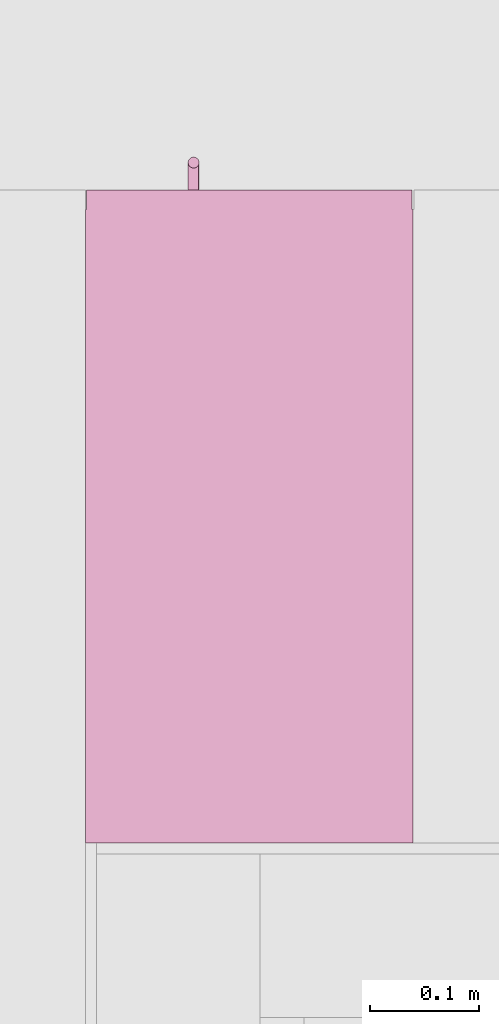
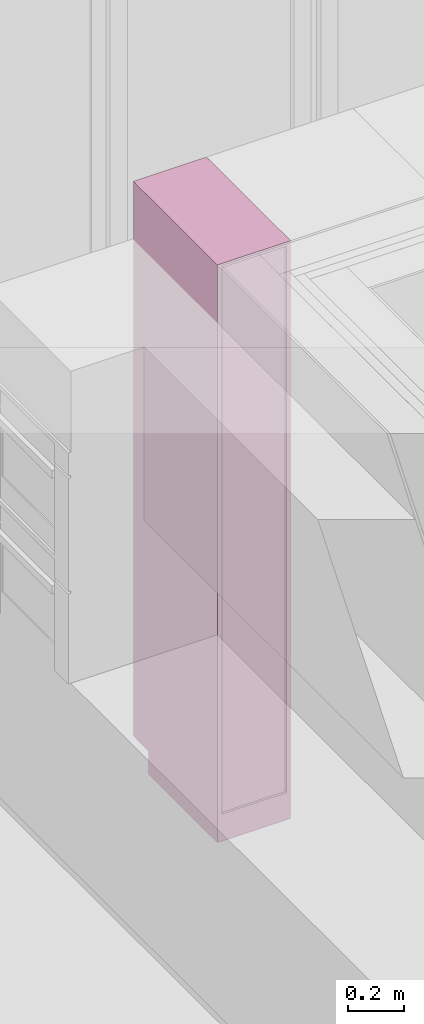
# One storey, part 29 of 34: 1 furniture element.
"""IFC4 building model written with IfcOpenShell, lengths in millimetres."""

from ifc_helpers import new_model, entity, si_unit, converted_unit, derived_unit, direction, frame, origin_with_axes, place, context, subcontext, project, spatial, polygons, source, transform, mapped, type_object, element, save


model = new_model("IFC4")

# Units and contexts
model_context = context("Model", 3, precision=0.01, world=origin_with_axes(), true_north=direction((0.0, 1.0)))
body_context = subcontext(model_context, "Body", "Model", "MODEL_VIEW")
ifc_project = project(units=[si_unit("LENGTHUNIT", "METRE", prefix="MILLI"), si_unit("AREAUNIT", "SQUARE_METRE"), si_unit("VOLUMEUNIT", "CUBIC_METRE"), converted_unit("PLANEANGLEUNIT", "DEGREE", entity("IfcPlaneAngleMeasure", 0.0174532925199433), si_unit("PLANEANGLEUNIT", "RADIAN"), dimensions=[0, 0, 0, 0, 0, 0, 0]), converted_unit("TIMEUNIT", "Year", entity("IfcTimeMeasure", 31557600.0), si_unit("TIMEUNIT", "SECOND"), dimensions=[0, 0, 1, 0, 0, 0, 0]), si_unit("MASSUNIT", "GRAM", prefix="KILO"), si_unit("THERMODYNAMICTEMPERATUREUNIT", "DEGREE_CELSIUS"), si_unit("LUMINOUSINTENSITYUNIT", "LUMEN"), si_unit("ENERGYUNIT", "JOULE", prefix="MEGA"), derived_unit("THERMALCONDUCTANCEUNIT", [(si_unit("POWERUNIT", "WATT"), 1), (si_unit("LENGTHUNIT", "METRE"), -1), (si_unit("THERMODYNAMICTEMPERATUREUNIT", "KELVIN"), -1)]), derived_unit("SPECIFICHEATCAPACITYUNIT", [(si_unit("ENERGYUNIT", "JOULE"), 1), (si_unit("MASSUNIT", "GRAM", prefix="KILO"), -1), (si_unit("THERMODYNAMICTEMPERATUREUNIT", "KELVIN"), -1)]), derived_unit("MASSDENSITYUNIT", [(si_unit("MASSUNIT", "GRAM", prefix="KILO"), 1), (si_unit("VOLUMEUNIT", "CUBIC_METRE"), -1)])], contexts=[model_context])

# Site, building, storey
site_placement = place(None, origin_with_axes())
site = spatial("IfcSite", under=ifc_project, at=site_placement, Name="Gelände", CompositionType="ELEMENT")
building_placement = place(site_placement, origin_with_axes())
building = spatial("IfcBuilding", under=site, at=building_placement, Name="Gebäude", CompositionType="ELEMENT")
storey_placement = place(building_placement, frame((0.0, 0.0, 5799.999999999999), z_axis=(0.0, 0.0, 1.0), x_axis=(1.0, 0.0, 0.0)))
storey = spatial("IfcBuildingStorey", under=building, at=storey_placement, Name="2.OG", CompositionType="ELEMENT", Elevation=5800.0)

# Furniture
furniture_type = type_object("IfcFurnitureType", Name="Stehender Schrank Block 27", AssemblyPlace="NOTDEFINED", PredefinedType="NOTDEFINED")
shared_shape = source(origin_with_axes(), body_context, "Body", "Tessellation", [
    polygons([(201.8682408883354, -597.9999999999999, 1352.799038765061), (202.710100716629, -597.9999999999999, 1352.573463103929), (203.5000000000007, -597.9999999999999, 1352.205127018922), (204.2139380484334, -597.9999999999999, 1351.705222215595), (204.8302222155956, -597.9999999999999, 1351.088938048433), (205.3301270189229, -597.9999999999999, 1350.375), (205.6984631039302, -597.9999999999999, 1349.585100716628), (205.9240387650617, -597.9999999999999, 1348.743240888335), (206.0000000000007, -597.9999999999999, 1347.875), (205.9240387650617, -597.9999999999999, 1347.006759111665), (205.6984631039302, -597.9999999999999, 1346.164899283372), (205.3301270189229, -597.9999999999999, 1345.375), (204.8302222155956, -597.9999999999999, 1344.661061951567), (204.2139380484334, -597.9999999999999, 1344.044777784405), (203.5000000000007, -597.9999999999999, 1343.544872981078), (202.710100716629, -597.9999999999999, 1343.176536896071), (201.8682408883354, -597.9999999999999, 1342.950961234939), (201.0000000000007, -597.9999999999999, 1342.875), (200.1317591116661, -597.9999999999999, 1342.950961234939), (199.2898992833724, -597.9999999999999, 1343.176536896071), (198.5000000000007, -597.9999999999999, 1343.544872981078), (197.786061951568, -597.9999999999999, 1344.044777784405), (197.1697777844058, -597.9999999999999, 1344.661061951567), (196.6698729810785, -597.9999999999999, 1345.375), (196.3015368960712, -597.9999999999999, 1346.164899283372), (196.0759612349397, -597.9999999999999, 1347.006759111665), (196.0000000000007, -597.9999999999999, 1347.875), (196.0759612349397, -597.9999999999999, 1348.743240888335), (196.3015368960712, -597.9999999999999, 1349.585100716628), (196.6698729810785, -597.9999999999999, 1350.375), (197.1697777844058, -597.9999999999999, 1351.088938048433), (197.786061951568, -597.9999999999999, 1351.705222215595), (198.5000000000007, -597.9999999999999, 1352.205127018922), (199.2898992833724, -597.9999999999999, 1352.573463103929), (200.1317591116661, -597.9999999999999, 1352.799038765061), (201.0000000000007, -597.9999999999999, 1352.875), (201.8682408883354, -622.9999999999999, 1352.799038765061), (202.710100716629, -622.9999999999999, 1352.573463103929), (203.5000000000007, -622.9999999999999, 1352.205127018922), (204.2139380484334, -622.9999999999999, 1351.705222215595), (204.8302222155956, -622.9999999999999, 1351.088938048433), (205.3301270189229, -622.9999999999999, 1350.375), (205.6984631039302, -622.9999999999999, 1349.585100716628), (205.9240387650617, -622.9999999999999, 1348.743240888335), (206.0000000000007, -622.9999999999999, 1347.875), (205.9240387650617, -622.9999999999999, 1347.006759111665), (205.6984631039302, -622.9999999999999, 1346.164899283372), (205.3301270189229, -622.9999999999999, 1345.375), (204.8302222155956, -622.9999999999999, 1344.661061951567), (204.2139380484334, -622.9999999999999, 1344.044777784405), (203.5000000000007, -622.9999999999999, 1343.544872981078), (202.710100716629, -622.9999999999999, 1343.176536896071), (201.8682408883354, -622.9999999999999, 1342.950961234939), (201.0000000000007, -622.9999999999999, 1342.875), (200.1317591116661, -622.9999999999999, 1342.950961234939), (199.2898992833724, -622.9999999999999, 1343.176536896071), (198.5000000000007, -622.9999999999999, 1343.544872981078), (197.786061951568, -622.9999999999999, 1344.044777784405), (197.1697777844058, -622.9999999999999, 1344.661061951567), (196.6698729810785, -622.9999999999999, 1345.375), (196.3015368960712, -622.9999999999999, 1346.164899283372), (196.0759612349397, -622.9999999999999, 1347.006759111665), (196.0000000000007, -622.9999999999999, 1347.875), (196.0759612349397, -622.9999999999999, 1348.743240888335), (196.3015368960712, -622.9999999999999, 1349.585100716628), (196.6698729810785, -622.9999999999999, 1350.375), (197.1697777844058, -622.9999999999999, 1351.088938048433), (197.786061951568, -622.9999999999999, 1351.705222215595), (198.5000000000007, -622.9999999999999, 1352.205127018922), (199.2898992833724, -622.9999999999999, 1352.573463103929), (200.1317591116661, -622.9999999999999, 1352.799038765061), (201.0000000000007, -622.9999999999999, 1352.875)], [[[1, 2, 3, 4, 5, 6, 7, 8, 9, 10, 11, 12, 13, 14, 15, 16, 17, 18, 19, 20, 21, 22, 23, 24, 25, 26, 27, 28, 29, 30, 31, 32, 33, 34, 35, 36]], [[2, 1, 37, 38]], [[3, 2, 38, 39]], [[4, 3, 39, 40]], [[5, 4, 40, 41]], [[6, 5, 41, 42]], [[7, 6, 42, 43]], [[8, 7, 43, 44]], [[9, 8, 44, 45]], [[10, 9, 45, 46]], [[11, 10, 46, 47]], [[12, 11, 47, 48]], [[13, 12, 48, 49]], [[14, 13, 49, 50]], [[15, 14, 50, 51]], [[16, 15, 51, 52]], [[17, 16, 52, 53]], [[18, 17, 53, 54]], [[19, 18, 54, 55]], [[20, 19, 55, 56]], [[21, 20, 56, 57]], [[22, 21, 57, 58]], [[23, 22, 58, 59]], [[24, 23, 59, 60]], [[25, 24, 60, 61]], [[26, 25, 61, 62]], [[27, 26, 62, 63]], [[28, 27, 63, 64]], [[29, 28, 64, 65]], [[30, 29, 65, 66]], [[31, 30, 66, 67]], [[32, 31, 67, 68]], [[33, 32, 68, 69]], [[34, 33, 69, 70]], [[35, 34, 70, 71]], [[36, 35, 71, 72]], [[1, 36, 72, 37]], [[37, 72, 71, 70, 69, 68, 67, 66, 65, 64, 63, 62, 61, 60, 59, 58, 57, 56, 55, 54, 53, 52, 51, 50, 49, 48, 47, 46, 45, 44, 43, 42, 41, 40, 39, 38]]], closed=True),
    polygons([(201.8682408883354, -597.9999999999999, 1249.200961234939), (201.0000000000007, -597.9999999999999, 1249.125), (200.1317591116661, -597.9999999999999, 1249.200961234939), (199.2898992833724, -597.9999999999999, 1249.426536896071), (198.5000000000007, -597.9999999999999, 1249.794872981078), (197.786061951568, -597.9999999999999, 1250.294777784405), (197.1697777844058, -597.9999999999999, 1250.911061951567), (196.6698729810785, -597.9999999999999, 1251.625), (196.3015368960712, -597.9999999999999, 1252.414899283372), (196.0759612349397, -597.9999999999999, 1253.256759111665), (196.0000000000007, -597.9999999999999, 1254.125), (196.0759612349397, -597.9999999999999, 1254.993240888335), (196.3015368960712, -597.9999999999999, 1255.835100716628), (196.6698729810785, -597.9999999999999, 1256.625), (197.1697777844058, -597.9999999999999, 1257.338938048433), (197.786061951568, -597.9999999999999, 1257.955222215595), (198.5000000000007, -597.9999999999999, 1258.455127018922), (199.2898992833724, -597.9999999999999, 1258.823463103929), (200.1317591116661, -597.9999999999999, 1259.049038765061), (201.0000000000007, -597.9999999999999, 1259.125), (201.8682408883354, -597.9999999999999, 1259.049038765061), (202.710100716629, -597.9999999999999, 1258.823463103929), (203.5000000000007, -597.9999999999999, 1258.455127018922), (204.2139380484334, -597.9999999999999, 1257.955222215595), (204.8302222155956, -597.9999999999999, 1257.338938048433), (205.3301270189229, -597.9999999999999, 1256.625), (205.6984631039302, -597.9999999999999, 1255.835100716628), (205.9240387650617, -597.9999999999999, 1254.993240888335), (206.0000000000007, -597.9999999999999, 1254.125), (205.9240387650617, -597.9999999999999, 1253.256759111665), (205.6984631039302, -597.9999999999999, 1252.414899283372), (205.3301270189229, -597.9999999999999, 1251.625), (204.8302222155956, -597.9999999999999, 1250.911061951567), (204.2139380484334, -597.9999999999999, 1250.294777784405), (203.5000000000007, -597.9999999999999, 1249.794872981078), (202.710100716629, -597.9999999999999, 1249.426536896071), (201.8682408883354, -622.9999999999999, 1249.200961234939), (201.0000000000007, -622.9999999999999, 1249.125), (200.1317591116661, -622.9999999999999, 1249.200961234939), (199.2898992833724, -622.9999999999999, 1249.426536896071), (198.5000000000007, -622.9999999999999, 1249.794872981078), (197.786061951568, -622.9999999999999, 1250.294777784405), (197.1697777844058, -622.9999999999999, 1250.911061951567), (196.6698729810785, -622.9999999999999, 1251.625), (196.3015368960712, -622.9999999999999, 1252.414899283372), (196.0759612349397, -622.9999999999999, 1253.256759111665), (196.0000000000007, -622.9999999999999, 1254.125), (196.0759612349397, -622.9999999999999, 1254.993240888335), (196.3015368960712, -622.9999999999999, 1255.835100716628), (196.6698729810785, -622.9999999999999, 1256.625), (197.1697777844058, -622.9999999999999, 1257.338938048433), (197.786061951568, -622.9999999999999, 1257.955222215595), (198.5000000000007, -622.9999999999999, 1258.455127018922), (199.2898992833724, -622.9999999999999, 1258.823463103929), (200.1317591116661, -622.9999999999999, 1259.049038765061), (201.0000000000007, -622.9999999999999, 1259.125), (201.8682408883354, -622.9999999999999, 1259.049038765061), (202.710100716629, -622.9999999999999, 1258.823463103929), (203.5000000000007, -622.9999999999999, 1258.455127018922), (204.2139380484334, -622.9999999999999, 1257.955222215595), (204.8302222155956, -622.9999999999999, 1257.338938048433), (205.3301270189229, -622.9999999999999, 1256.625), (205.6984631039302, -622.9999999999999, 1255.835100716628), (205.9240387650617, -622.9999999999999, 1254.993240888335), (206.0000000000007, -622.9999999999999, 1254.125), (205.9240387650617, -622.9999999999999, 1253.256759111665), (205.6984631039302, -622.9999999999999, 1252.414899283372), (205.3301270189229, -622.9999999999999, 1251.625), (204.8302222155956, -622.9999999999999, 1250.911061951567), (204.2139380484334, -622.9999999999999, 1250.294777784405), (203.5000000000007, -622.9999999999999, 1249.794872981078), (202.710100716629, -622.9999999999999, 1249.426536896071)], [[[1, 2, 3, 4, 5, 6, 7, 8, 9, 10, 11, 12, 13, 14, 15, 16, 17, 18, 19, 20, 21, 22, 23, 24, 25, 26, 27, 28, 29, 30, 31, 32, 33, 34, 35, 36]], [[1, 37, 38, 2]], [[2, 38, 39, 3]], [[3, 39, 40, 4]], [[4, 40, 41, 5]], [[5, 41, 42, 6]], [[6, 42, 43, 7]], [[7, 43, 44, 8]], [[8, 44, 45, 9]], [[9, 45, 46, 10]], [[10, 46, 47, 11]], [[11, 47, 48, 12]], [[12, 48, 49, 13]], [[13, 49, 50, 14]], [[14, 50, 51, 15]], [[15, 51, 52, 16]], [[16, 52, 53, 17]], [[17, 53, 54, 18]], [[18, 54, 55, 19]], [[19, 55, 56, 20]], [[20, 56, 57, 21]], [[21, 57, 58, 22]], [[22, 58, 59, 23]], [[23, 59, 60, 24]], [[24, 60, 61, 25]], [[25, 61, 62, 26]], [[26, 62, 63, 27]], [[27, 63, 64, 28]], [[28, 64, 65, 29]], [[29, 65, 66, 30]], [[30, 66, 67, 31]], [[31, 67, 68, 32]], [[32, 68, 69, 33]], [[33, 69, 70, 34]], [[34, 70, 71, 35]], [[35, 71, 72, 36]], [[36, 72, 37, 1]], [[37, 72, 71, 70, 69, 68, 67, 66, 65, 64, 63, 62, 61, 60, 59, 58, 57, 56, 55, 54, 53, 52, 51, 50, 49, 48, 47, 46, 45, 44, 43, 42, 41, 40, 39, 38]]], closed=True),
    polygons([(201.8682408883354, -618.0759612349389, 1226.0), (202.710100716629, -618.3015368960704, 1226.0), (203.5000000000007, -618.6698729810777, 1226.0), (204.2139380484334, -619.1697777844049, 1226.0), (204.8302222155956, -619.7860619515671, 1226.0), (205.3301270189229, -620.4999999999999, 1226.0), (205.6984631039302, -621.2898992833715, 1226.0), (205.9240387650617, -622.1317591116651, 1226.0), (206.0000000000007, -622.9999999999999, 1226.0), (205.9240387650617, -623.8682408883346, 1226.0), (205.6984631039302, -624.7101007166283, 1226.0), (205.3301270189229, -625.4999999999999, 1226.0), (204.8302222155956, -626.2139380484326, 1226.0), (204.2139380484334, -626.8302222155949, 1226.0), (203.5000000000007, -627.3301270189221, 1226.0), (202.710100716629, -627.6984631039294, 1226.0), (201.8682408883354, -627.924038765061, 1226.0), (201.0000000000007, -627.9999999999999, 1226.0), (200.1317591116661, -627.924038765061, 1226.0), (199.2898992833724, -627.6984631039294, 1226.0), (198.5000000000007, -627.3301270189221, 1226.0), (197.786061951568, -626.8302222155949, 1226.0), (197.1697777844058, -626.2139380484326, 1226.0), (196.6698729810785, -625.4999999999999, 1226.0), (196.3015368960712, -624.7101007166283, 1226.0), (196.0759612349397, -623.8682408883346, 1226.0), (196.0000000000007, -622.9999999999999, 1226.0), (196.0759612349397, -622.1317591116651, 1226.0), (196.3015368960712, -621.2898992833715, 1226.0), (196.6698729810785, -620.4999999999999, 1226.0), (197.1697777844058, -619.7860619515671, 1226.0), (197.786061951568, -619.1697777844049, 1226.0), (198.5000000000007, -618.6698729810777, 1226.0), (199.2898992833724, -618.3015368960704, 1226.0), (200.1317591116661, -618.0759612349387, 1226.0), (201.0000000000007, -617.9999999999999, 1226.0), (201.8682408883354, -618.0759612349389, 1376.0), (202.7101007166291, -618.3015368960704, 1376.0), (203.5000000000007, -618.6698729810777, 1376.0), (204.2139380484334, -619.1697777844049, 1376.0), (204.8302222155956, -619.7860619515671, 1376.0), (205.3301270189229, -620.4999999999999, 1376.0), (205.6984631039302, -621.2898992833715, 1376.0), (205.9240387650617, -622.1317591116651, 1376.0), (206.0000000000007, -622.9999999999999, 1376.0), (205.9240387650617, -623.8682408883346, 1376.0), (205.6984631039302, -624.7101007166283, 1376.0), (205.3301270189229, -625.4999999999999, 1376.0), (204.8302222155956, -626.2139380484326, 1376.0), (204.2139380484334, -626.8302222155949, 1376.0), (203.5000000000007, -627.3301270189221, 1376.0), (202.7101007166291, -627.6984631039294, 1376.0), (201.8682408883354, -627.924038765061, 1376.0), (201.0000000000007, -627.9999999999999, 1376.0), (200.1317591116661, -627.924038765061, 1376.0), (199.2898992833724, -627.6984631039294, 1376.0), (198.5000000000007, -627.3301270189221, 1376.0), (197.786061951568, -626.8302222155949, 1376.0), (197.1697777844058, -626.2139380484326, 1376.0), (196.6698729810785, -625.4999999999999, 1376.0), (196.3015368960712, -624.7101007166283, 1376.0), (196.0759612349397, -623.8682408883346, 1376.0), (196.0000000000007, -622.9999999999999, 1376.0), (196.0759612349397, -622.1317591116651, 1376.0), (196.3015368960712, -621.2898992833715, 1376.0), (196.6698729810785, -620.4999999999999, 1376.0), (197.1697777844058, -619.7860619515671, 1376.0), (197.786061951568, -619.1697777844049, 1376.0), (198.5000000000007, -618.6698729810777, 1376.0), (199.2898992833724, -618.3015368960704, 1376.0), (200.1317591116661, -618.0759612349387, 1376.0), (201.0000000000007, -617.9999999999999, 1376.0)], [[[1, 2, 3, 4, 5, 6, 7, 8, 9, 10, 11, 12, 13, 14, 15, 16, 17, 18, 19, 20, 21, 22, 23, 24, 25, 26, 27, 28, 29, 30, 31, 32, 33, 34, 35, 36]], [[2, 1, 37, 38]], [[3, 2, 38, 39]], [[4, 3, 39, 40]], [[5, 4, 40, 41]], [[6, 5, 41, 42]], [[7, 6, 42, 43]], [[8, 7, 43, 44]], [[9, 8, 44, 45]], [[10, 9, 45, 46]], [[11, 10, 46, 47]], [[12, 11, 47, 48]], [[13, 12, 48, 49]], [[14, 13, 49, 50]], [[15, 14, 50, 51]], [[16, 15, 51, 52]], [[17, 16, 52, 53]], [[18, 17, 53, 54]], [[19, 18, 54, 55]], [[20, 19, 55, 56]], [[21, 20, 56, 57]], [[22, 21, 57, 58]], [[23, 22, 58, 59]], [[24, 23, 59, 60]], [[25, 24, 60, 61]], [[26, 25, 61, 62]], [[27, 26, 62, 63]], [[28, 27, 63, 64]], [[29, 28, 64, 65]], [[30, 29, 65, 66]], [[31, 30, 66, 67]], [[32, 31, 67, 68]], [[33, 32, 68, 69]], [[34, 33, 69, 70]], [[35, 34, 70, 71]], [[36, 35, 71, 72]], [[1, 36, 72, 37]], [[37, 72, 71, 70, 69, 68, 67, 66, 65, 64, 63, 62, 61, 60, 59, 58, 57, 56, 55, 54, 53, 52, 51, 50, 49, 48, 47, 46, 45, 44, 43, 42, 41, 40, 39, 38]]], closed=True),
    polygons([(1.0, -580.0, 101.0), (299.0000000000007, -580.0, 101.0), (299.0000000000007, -598.0, 101.0), (1.0, -598.0, 101.0), (1.0, -579.9999999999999, 2499.0), (299.0000000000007, -579.9999999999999, 2499.0), (299.0000000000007, -597.9999999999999, 2499.0), (1.0, -597.9999999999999, 2499.0)], [[[1, 2, 3, 4]], [[1, 5, 6, 2]], [[2, 6, 7, 3]], [[4, 3, 7, 8]], [[5, 1, 4, 8]], [[6, 5, 8, 7]]], closed=True),
    polygons([(18.0, -580.0, 100.0), (282.0000000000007, -580.0, 100.0), (282.0000000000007, -580.0, 118.0), (18.0, -580.0, 118.0), (18.0, 0.0, 100.0), (282.0000000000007, 0.0, 100.0), (282.0000000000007, 0.0, 118.0), (18.0, 0.0, 118.0)], [[[1, 2, 3, 4]], [[1, 5, 6, 2]], [[2, 6, 7, 3]], [[4, 3, 7, 8]], [[5, 1, 4, 8]], [[6, 5, 8, 7]]], closed=True),
    polygons([(18.0, -580.0, 2482.0), (282.0000000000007, -580.0, 2482.0), (282.0000000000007, -580.0, 2500.0), (18.0, -580.0, 2500.0), (18.0, 0.0, 2482.0), (282.0000000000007, 0.0, 2482.0), (282.0000000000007, 0.0, 2500.0), (18.0, 0.0, 2500.0)], [[[1, 2, 3, 4]], [[1, 5, 6, 2]], [[2, 6, 7, 3]], [[4, 3, 7, 8]], [[5, 1, 4, 8]], [[6, 5, 8, 7]]], closed=True),
    polygons([(0.0, 0.0, 100.0), (0.0, -580.0, 100.0), (0.0, -580.0, 2500.0), (0.0, 0.0, 2500.0), (18.0, 0.0, 100.0), (18.0, -580.0, 100.0), (18.0, -580.0, 2500.0), (18.0, 0.0, 2500.0)], [[[1, 2, 3, 4]], [[1, 5, 6, 2]], [[2, 6, 7, 3]], [[4, 3, 7, 8]], [[5, 1, 4, 8]], [[6, 5, 8, 7]]], closed=True),
    polygons([(300.0000000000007, -580.0, 100.0), (300.0000000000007, 0.0, 100.0), (300.0000000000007, 0.0, 2500.0), (300.0000000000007, -580.0, 2500.0), (282.0000000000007, -580.0, 100.0), (282.0000000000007, 0.0, 100.0), (282.0000000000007, 0.0, 2500.0), (282.0000000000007, -580.0, 2500.0)], [[[1, 2, 3, 4]], [[1, 5, 6, 2]], [[2, 6, 7, 3]], [[4, 3, 7, 8]], [[5, 1, 4, 8]], [[6, 5, 8, 7]]], closed=True),
    polygons([(282.0000000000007, -9.0, 118.0), (18.00000000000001, -9.0, 118.0), (18.00000000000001, -9.0, 2482.0), (282.0000000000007, -9.0, 2482.0), (282.0000000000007, -18.0, 118.0), (18.00000000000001, -18.0, 118.0), (18.00000000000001, -18.0, 2482.0), (282.0000000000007, -18.0, 2482.0)], [[[1, 2, 3, 4]], [[1, 5, 6, 2]], [[2, 6, 7, 3]], [[4, 3, 7, 8]], [[5, 1, 4, 8]], [[6, 5, 8, 7]]], closed=True),
    polygons([(0.0, -490.0, 0.0), (300.0000000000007, -490.0, 0.0), (300.0000000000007, -490.0, 100.0), (0.0, -490.0, 100.0), (0.0, 0.0, 0.0), (300.0000000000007, 0.0, 0.0), (300.0000000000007, 0.0, 100.0), (0.0, 0.0, 100.0)], [[[1, 2, 3, 4]], [[1, 5, 6, 2]], [[2, 6, 7, 3]], [[4, 3, 7, 8]], [[5, 1, 4, 8]], [[6, 5, 8, 7]]], closed=True),
])
furniture_placement = place(storey_placement, frame((8328.997444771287, 34847.59728131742, 150.0000000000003), z_axis=(0.0, 0.0, 1.0), x_axis=(-1.0, 0.0, 0.0)))
element("IfcFurniture", 1, at=furniture_placement, inside=storey, type_object=furniture_type, Name="Möbel-021", PredefinedType="NOTDEFINED", context=body_context, shape_type="MappedRepresentation", body=[
    mapped(shared_shape, transform((0.0, 0.0, 0.0))),
])

save(model, "model.ifc")
